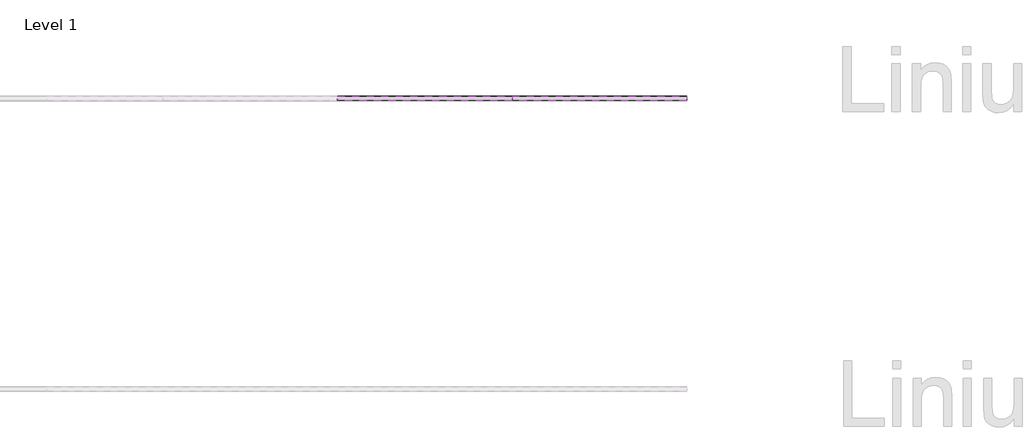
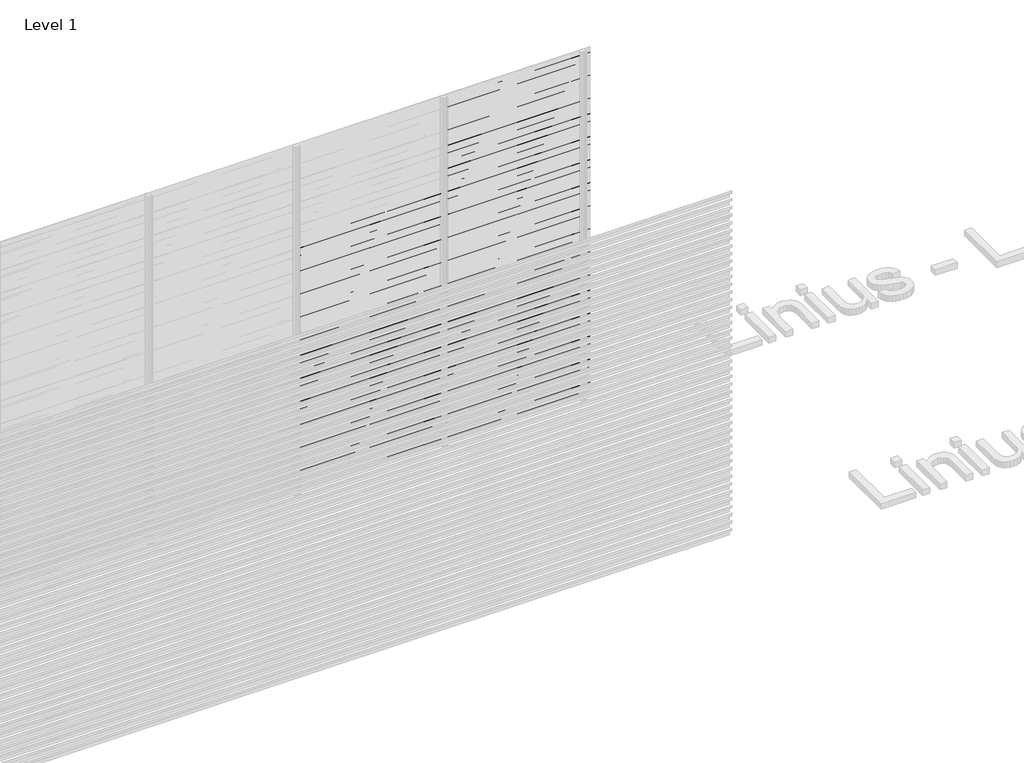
# One storey, part 114 of 540: 78 proxies.
"""IFC4 building model written with IfcOpenShell, lengths in millimetres."""

from ifc_helpers import new_model, si_unit, frame, origin, place, context, project, spatial, polyline, outline, extrude, element, save

model = new_model("IFC4")

# Units and contexts
model_context = context("Model", 3, world=origin())
ifc_project = project(units=[si_unit("LENGTHUNIT", "METRE", prefix="MILLI")], contexts=[model_context])

# Site, building, storey
site = spatial("IfcSite", under=ifc_project)
building = spatial("IfcBuilding", under=site)
storey = spatial("IfcBuildingStorey", under=building, Name="Level 1", Elevation=0.0)

# Proxies
placement = place(None, origin())
element("IfcBuildingElementProxy", 1, Name="Wall Sweeps", at=placement, inside=storey, context=model_context, shape_type="SweptSolid", body=[
    extrude(outline(polyline([(59014.0540136, 2138.0), (59014.0540136, 2105.0), (59012.8040136, 2105.7216933), (59012.8040136, 2137.2872415), (58983.0540136, 2158.0588647), (58983.0540136, 2178.0), (58984.3040136, 2178.0), (58984.3040136, 2158.7716232), (59014.0540136, 2138.0)])), frame((48566.6208097, 0.0, 0.0), z_axis=(1.0, 0.0, 0.0), x_axis=(0.0, 1.0, 0.0)), (0.0, 0.0, 1.0), 1200.0),
])
element("IfcBuildingElementProxy", 2, Name="Wall Sweeps", at=placement, inside=storey, context=model_context, shape_type="SweptSolid", body=[
    extrude(outline(polyline([(59014.0540136, 2072.0), (59014.0540136, 2039.0), (59012.8040136, 2039.7216933), (59012.8040136, 2071.2872415), (58983.0540136, 2092.0588647), (58983.0540136, 2112.0), (58984.3040136, 2112.0), (58984.3040136, 2092.7716232), (59014.0540136, 2072.0)])), frame((48566.6208097, 0.0, 0.0), z_axis=(1.0, 0.0, 0.0), x_axis=(0.0, 1.0, 0.0)), (0.0, 0.0, 1.0), 1200.0),
])
element("IfcBuildingElementProxy", 3, Name="Wall Sweeps", at=placement, inside=storey, context=model_context, shape_type="SweptSolid", body=[
    extrude(outline(polyline([(59014.0540136, 2006.0), (59014.0540136, 1973.0), (59012.8040136, 1973.7216933), (59012.8040136, 2005.2872415), (58983.0540136, 2026.0588647), (58983.0540136, 2046.0), (58984.3040136, 2046.0), (58984.3040136, 2026.7716232), (59014.0540136, 2006.0)])), frame((48566.6208097, 0.0, 0.0), z_axis=(1.0, 0.0, 0.0), x_axis=(0.0, 1.0, 0.0)), (0.0, 0.0, 1.0), 1200.0),
])
element("IfcBuildingElementProxy", 4, Name="Wall Sweeps", at=placement, inside=storey, context=model_context, shape_type="SweptSolid", body=[
    extrude(outline(polyline([(59014.0540136, 1940.0), (59014.0540136, 1907.0), (59012.8040136, 1907.7216933), (59012.8040136, 1939.2872415), (58983.0540136, 1960.0588647), (58983.0540136, 1980.0), (58984.3040136, 1980.0), (58984.3040136, 1960.7716232), (59014.0540136, 1940.0)])), frame((48566.6208097, 0.0, 0.0), z_axis=(1.0, 0.0, 0.0), x_axis=(0.0, 1.0, 0.0)), (0.0, 0.0, 1.0), 1200.0),
])
element("IfcBuildingElementProxy", 5, Name="Wall Sweeps", at=placement, inside=storey, context=model_context, shape_type="SweptSolid", body=[
    extrude(outline(polyline([(59014.0540136, 1874.0), (59014.0540136, 1841.0), (59012.8040136, 1841.7216933), (59012.8040136, 1873.2872415), (58983.0540136, 1894.0588647), (58983.0540136, 1914.0), (58984.3040136, 1914.0), (58984.3040136, 1894.7716232), (59014.0540136, 1874.0)])), frame((48566.6208097, 0.0, 0.0), z_axis=(1.0, 0.0, 0.0), x_axis=(0.0, 1.0, 0.0)), (0.0, 0.0, 1.0), 1200.0),
])
element("IfcBuildingElementProxy", 6, Name="Wall Sweeps", at=placement, inside=storey, context=model_context, shape_type="SweptSolid", body=[
    extrude(outline(polyline([(59014.0540136, 1808.0), (59014.0540136, 1775.0), (59012.8040136, 1775.7216933), (59012.8040136, 1807.2872415), (58983.0540136, 1828.0588647), (58983.0540136, 1848.0), (58984.3040136, 1848.0), (58984.3040136, 1828.7716232), (59014.0540136, 1808.0)])), frame((48566.6208097, 0.0, 0.0), z_axis=(1.0, 0.0, 0.0), x_axis=(0.0, 1.0, 0.0)), (0.0, 0.0, 1.0), 1200.0),
])
element("IfcBuildingElementProxy", 7, Name="Wall Sweeps", at=placement, inside=storey, context=model_context, shape_type="SweptSolid", body=[
    extrude(outline(polyline([(59014.0540136, 1742.0), (59014.0540136, 1709.0), (59012.8040136, 1709.7216933), (59012.8040136, 1741.2872415), (58983.0540136, 1762.0588647), (58983.0540136, 1782.0), (58984.3040136, 1782.0), (58984.3040136, 1762.7716232), (59014.0540136, 1742.0)])), frame((48566.6208097, 0.0, 0.0), z_axis=(1.0, 0.0, 0.0), x_axis=(0.0, 1.0, 0.0)), (0.0, 0.0, 1.0), 1200.0),
])
element("IfcBuildingElementProxy", 8, Name="Wall Sweeps", at=placement, inside=storey, context=model_context, shape_type="SweptSolid", body=[
    extrude(outline(polyline([(59014.0540136, 1676.0), (59014.0540136, 1643.0), (59012.8040136, 1643.7216933), (59012.8040136, 1675.2872415), (58983.0540136, 1696.0588647), (58983.0540136, 1716.0), (58984.3040136, 1716.0), (58984.3040136, 1696.7716232), (59014.0540136, 1676.0)])), frame((48566.6208097, 0.0, 0.0), z_axis=(1.0, 0.0, 0.0), x_axis=(0.0, 1.0, 0.0)), (0.0, 0.0, 1.0), 1200.0),
])
element("IfcBuildingElementProxy", 9, Name="Wall Sweeps", at=placement, inside=storey, context=model_context, shape_type="SweptSolid", body=[
    extrude(outline(polyline([(59014.0540136, 1610.0), (59014.0540136, 1577.0), (59012.8040136, 1577.7216933), (59012.8040136, 1609.2872415), (58983.0540136, 1630.0588647), (58983.0540136, 1650.0), (58984.3040136, 1650.0), (58984.3040136, 1630.7716232), (59014.0540136, 1610.0)])), frame((48566.6208097, 0.0, 0.0), z_axis=(1.0, 0.0, 0.0), x_axis=(0.0, 1.0, 0.0)), (0.0, 0.0, 1.0), 1200.0),
])
element("IfcBuildingElementProxy", 10, Name="Wall Sweeps", at=placement, inside=storey, context=model_context, shape_type="SweptSolid", body=[
    extrude(outline(polyline([(59014.0540136, 1544.0), (59014.0540136, 1511.0), (59012.8040136, 1511.7216933), (59012.8040136, 1543.2872415), (58983.0540136, 1564.0588647), (58983.0540136, 1584.0), (58984.3040136, 1584.0), (58984.3040136, 1564.7716232), (59014.0540136, 1544.0)])), frame((48566.6208097, 0.0, 0.0), z_axis=(1.0, 0.0, 0.0), x_axis=(0.0, 1.0, 0.0)), (0.0, 0.0, 1.0), 1200.0),
])
element("IfcBuildingElementProxy", 11, Name="Wall Sweeps", at=placement, inside=storey, context=model_context, shape_type="SweptSolid", body=[
    extrude(outline(polyline([(59014.0540136, 1478.0), (59014.0540136, 1445.0), (59012.8040136, 1445.7216933), (59012.8040136, 1477.2872415), (58983.0540136, 1498.0588647), (58983.0540136, 1518.0), (58984.3040136, 1518.0), (58984.3040136, 1498.7716232), (59014.0540136, 1478.0)])), frame((48566.6208097, 0.0, 0.0), z_axis=(1.0, 0.0, 0.0), x_axis=(0.0, 1.0, 0.0)), (0.0, 0.0, 1.0), 1200.0),
])
element("IfcBuildingElementProxy", 12, Name="Wall Sweeps", at=placement, inside=storey, context=model_context, shape_type="SweptSolid", body=[
    extrude(outline(polyline([(59014.0540136, 1412.0), (59014.0540136, 1379.0), (59012.8040136, 1379.7216933), (59012.8040136, 1411.2872415), (58983.0540136, 1432.0588647), (58983.0540136, 1452.0), (58984.3040136, 1452.0), (58984.3040136, 1432.7716232), (59014.0540136, 1412.0)])), frame((48566.6208097, 0.0, 0.0), z_axis=(1.0, 0.0, 0.0), x_axis=(0.0, 1.0, 0.0)), (0.0, 0.0, 1.0), 1200.0),
])
element("IfcBuildingElementProxy", 13, Name="Wall Sweeps", at=placement, inside=storey, context=model_context, shape_type="SweptSolid", body=[
    extrude(outline(polyline([(59014.0540136, 1346.0), (59014.0540136, 1313.0), (59012.8040136, 1313.7216933), (59012.8040136, 1345.2872415), (58983.0540136, 1366.0588647), (58983.0540136, 1386.0), (58984.3040136, 1386.0), (58984.3040136, 1366.7716232), (59014.0540136, 1346.0)])), frame((48566.6208097, 0.0, 0.0), z_axis=(1.0, 0.0, 0.0), x_axis=(0.0, 1.0, 0.0)), (0.0, 0.0, 1.0), 1200.0),
])
element("IfcBuildingElementProxy", 14, Name="Wall Sweeps", at=placement, inside=storey, context=model_context, shape_type="SweptSolid", body=[
    extrude(outline(polyline([(59014.0540136, 1280.0), (59014.0540136, 1247.0), (59012.8040136, 1247.7216933), (59012.8040136, 1279.2872415), (58983.0540136, 1300.0588647), (58983.0540136, 1320.0), (58984.3040136, 1320.0), (58984.3040136, 1300.7716232), (59014.0540136, 1280.0)])), frame((48566.6208097, 0.0, 0.0), z_axis=(1.0, 0.0, 0.0), x_axis=(0.0, 1.0, 0.0)), (0.0, 0.0, 1.0), 1200.0),
])
element("IfcBuildingElementProxy", 15, Name="Wall Sweeps", at=placement, inside=storey, context=model_context, shape_type="SweptSolid", body=[
    extrude(outline(polyline([(59014.0540136, 1214.0), (59014.0540136, 1181.0), (59012.8040136, 1181.7216933), (59012.8040136, 1213.2872415), (58983.0540136, 1234.0588647), (58983.0540136, 1254.0), (58984.3040136, 1254.0), (58984.3040136, 1234.7716232), (59014.0540136, 1214.0)])), frame((48566.6208097, 0.0, 0.0), z_axis=(1.0, 0.0, 0.0), x_axis=(0.0, 1.0, 0.0)), (0.0, 0.0, 1.0), 1200.0),
])
element("IfcBuildingElementProxy", 16, Name="Wall Sweeps", at=placement, inside=storey, context=model_context, shape_type="SweptSolid", body=[
    extrude(outline(polyline([(59014.0540136, 1148.0), (59014.0540136, 1115.0), (59012.8040136, 1115.7216933), (59012.8040136, 1147.2872415), (58983.0540136, 1168.0588647), (58983.0540136, 1188.0), (58984.3040136, 1188.0), (58984.3040136, 1168.7716232), (59014.0540136, 1148.0)])), frame((48566.6208097, 0.0, 0.0), z_axis=(1.0, 0.0, 0.0), x_axis=(0.0, 1.0, 0.0)), (0.0, 0.0, 1.0), 1200.0),
])
element("IfcBuildingElementProxy", 17, Name="Wall Sweeps", at=placement, inside=storey, context=model_context, shape_type="SweptSolid", body=[
    extrude(outline(polyline([(59014.0540136, 1082.0), (59014.0540136, 1049.0), (59012.8040136, 1049.7216933), (59012.8040136, 1081.2872415), (58983.0540136, 1102.0588647), (58983.0540136, 1122.0), (58984.3040136, 1122.0), (58984.3040136, 1102.7716232), (59014.0540136, 1082.0)])), frame((48566.6208097, 0.0, 0.0), z_axis=(1.0, 0.0, 0.0), x_axis=(0.0, 1.0, 0.0)), (0.0, 0.0, 1.0), 1200.0),
])
element("IfcBuildingElementProxy", 18, Name="Wall Sweeps", at=placement, inside=storey, context=model_context, shape_type="SweptSolid", body=[
    extrude(outline(polyline([(59014.0540136, 1016.0), (59014.0540136, 983.0), (59012.8040136, 983.7216933), (59012.8040136, 1015.2872415), (58983.0540136, 1036.0588647), (58983.0540136, 1056.0), (58984.3040136, 1056.0), (58984.3040136, 1036.7716232), (59014.0540136, 1016.0)])), frame((48566.6208097, 0.0, 0.0), z_axis=(1.0, 0.0, 0.0), x_axis=(0.0, 1.0, 0.0)), (0.0, 0.0, 1.0), 1200.0),
])
element("IfcBuildingElementProxy", 19, Name="Wall Sweeps", at=placement, inside=storey, context=model_context, shape_type="SweptSolid", body=[
    extrude(outline(polyline([(59014.0540136, 950.0), (59014.0540136, 917.0), (59012.8040136, 917.7216933), (59012.8040136, 949.2872415), (58983.0540136, 970.0588647), (58983.0540136, 990.0), (58984.3040136, 990.0), (58984.3040136, 970.7716232), (59014.0540136, 950.0)])), frame((48566.6208097, 0.0, 0.0), z_axis=(1.0, 0.0, 0.0), x_axis=(0.0, 1.0, 0.0)), (0.0, 0.0, 1.0), 1200.0),
])
element("IfcBuildingElementProxy", 20, Name="Wall Sweeps", at=placement, inside=storey, context=model_context, shape_type="SweptSolid", body=[
    extrude(outline(polyline([(59014.0540136, 884.0), (59014.0540136, 851.0), (59012.8040136, 851.7216933), (59012.8040136, 883.2872415), (58983.0540136, 904.0588647), (58983.0540136, 924.0), (58984.3040136, 924.0), (58984.3040136, 904.7716232), (59014.0540136, 884.0)])), frame((48566.6208097, 0.0, 0.0), z_axis=(1.0, 0.0, 0.0), x_axis=(0.0, 1.0, 0.0)), (0.0, 0.0, 1.0), 1200.0),
])
element("IfcBuildingElementProxy", 21, Name="Wall Sweeps", at=placement, inside=storey, context=model_context, shape_type="SweptSolid", body=[
    extrude(outline(polyline([(59014.0540136, 818.0), (59014.0540136, 785.0), (59012.8040136, 785.7216933), (59012.8040136, 817.2872415), (58983.0540136, 838.0588647), (58983.0540136, 858.0), (58984.3040136, 858.0), (58984.3040136, 838.7716232), (59014.0540136, 818.0)])), frame((48566.6208097, 0.0, 0.0), z_axis=(1.0, 0.0, 0.0), x_axis=(0.0, 1.0, 0.0)), (0.0, 0.0, 1.0), 1200.0),
])
element("IfcBuildingElementProxy", 22, Name="Wall Sweeps", at=placement, inside=storey, context=model_context, shape_type="SweptSolid", body=[
    extrude(outline(polyline([(59014.0540136, 752.0), (59014.0540136, 719.0), (59012.8040136, 719.7216933), (59012.8040136, 751.2872415), (58983.0540136, 772.0588647), (58983.0540136, 792.0), (58984.3040136, 792.0), (58984.3040136, 772.7716232), (59014.0540136, 752.0)])), frame((48566.6208097, 0.0, 0.0), z_axis=(1.0, 0.0, 0.0), x_axis=(0.0, 1.0, 0.0)), (0.0, 0.0, 1.0), 1200.0),
])
element("IfcBuildingElementProxy", 23, Name="Wall Sweeps", at=placement, inside=storey, context=model_context, shape_type="SweptSolid", body=[
    extrude(outline(polyline([(59014.0540136, 686.0), (59014.0540136, 653.0), (59012.8040136, 653.7216933), (59012.8040136, 685.2872415), (58983.0540136, 706.0588647), (58983.0540136, 726.0), (58984.3040136, 726.0), (58984.3040136, 706.7716232), (59014.0540136, 686.0)])), frame((48566.6208097, 0.0, 0.0), z_axis=(1.0, 0.0, 0.0), x_axis=(0.0, 1.0, 0.0)), (0.0, 0.0, 1.0), 1200.0),
])
element("IfcBuildingElementProxy", 24, Name="Wall Sweeps", at=placement, inside=storey, context=model_context, shape_type="SweptSolid", body=[
    extrude(outline(polyline([(59014.0540136, 620.0), (59014.0540136, 587.0), (59012.8040136, 587.7216933), (59012.8040136, 619.2872415), (58983.0540136, 640.0588647), (58983.0540136, 660.0), (58984.3040136, 660.0), (58984.3040136, 640.7716232), (59014.0540136, 620.0)])), frame((48566.6208097, 0.0, 0.0), z_axis=(1.0, 0.0, 0.0), x_axis=(0.0, 1.0, 0.0)), (0.0, 0.0, 1.0), 1200.0),
])
element("IfcBuildingElementProxy", 25, Name="Wall Sweeps", at=placement, inside=storey, context=model_context, shape_type="SweptSolid", body=[
    extrude(outline(polyline([(59014.0540136, 554.0), (59014.0540136, 521.0), (59012.8040136, 521.7216933), (59012.8040136, 553.2872415), (58983.0540136, 574.0588647), (58983.0540136, 594.0), (58984.3040136, 594.0), (58984.3040136, 574.7716232), (59014.0540136, 554.0)])), frame((48566.6208097, 0.0, 0.0), z_axis=(1.0, 0.0, 0.0), x_axis=(0.0, 1.0, 0.0)), (0.0, 0.0, 1.0), 1200.0),
])
element("IfcBuildingElementProxy", 26, Name="Wall Sweeps", at=placement, inside=storey, context=model_context, shape_type="SweptSolid", body=[
    extrude(outline(polyline([(59014.0540136, 488.0), (59014.0540136, 455.0), (59012.8040136, 455.7216933), (59012.8040136, 487.2872415), (58983.0540136, 508.0588647), (58983.0540136, 528.0), (58984.3040136, 528.0), (58984.3040136, 508.7716232), (59014.0540136, 488.0)])), frame((48566.6208097, 0.0, 0.0), z_axis=(1.0, 0.0, 0.0), x_axis=(0.0, 1.0, 0.0)), (0.0, 0.0, 1.0), 1200.0),
])
element("IfcBuildingElementProxy", 27, Name="Wall Sweeps", at=placement, inside=storey, context=model_context, shape_type="SweptSolid", body=[
    extrude(outline(polyline([(59014.0540136, 422.0), (59014.0540136, 389.0), (59012.8040136, 389.7216933), (59012.8040136, 421.2872415), (58983.0540136, 442.0588647), (58983.0540136, 462.0), (58984.3040136, 462.0), (58984.3040136, 442.7716232), (59014.0540136, 422.0)])), frame((48566.6208097, 0.0, 0.0), z_axis=(1.0, 0.0, 0.0), x_axis=(0.0, 1.0, 0.0)), (0.0, 0.0, 1.0), 1200.0),
])
element("IfcBuildingElementProxy", 28, Name="Wall Sweeps", at=placement, inside=storey, context=model_context, shape_type="SweptSolid", body=[
    extrude(outline(polyline([(59014.0540136, 356.0), (59014.0540136, 323.0), (59012.8040136, 323.7216933), (59012.8040136, 355.2872415), (58983.0540136, 376.0588647), (58983.0540136, 396.0), (58984.3040136, 396.0), (58984.3040136, 376.7716232), (59014.0540136, 356.0)])), frame((48566.6208097, 0.0, 0.0), z_axis=(1.0, 0.0, 0.0), x_axis=(0.0, 1.0, 0.0)), (0.0, 0.0, 1.0), 1200.0),
])
element("IfcBuildingElementProxy", 29, Name="Wall Sweeps", at=placement, inside=storey, context=model_context, shape_type="SweptSolid", body=[
    extrude(outline(polyline([(59014.0540136, 290.0), (59014.0540136, 257.0), (59012.8040136, 257.7216933), (59012.8040136, 289.2872415), (58983.0540136, 310.0588647), (58983.0540136, 330.0), (58984.3040136, 330.0), (58984.3040136, 310.7716232), (59014.0540136, 290.0)])), frame((48566.6208097, 0.0, 0.0), z_axis=(1.0, 0.0, 0.0), x_axis=(0.0, 1.0, 0.0)), (0.0, 0.0, 1.0), 1200.0),
])
element("IfcBuildingElementProxy", 30, Name="Wall Sweeps", at=placement, inside=storey, context=model_context, shape_type="SweptSolid", body=[
    extrude(outline(polyline([(59014.0540136, 224.0), (59014.0540136, 191.0), (59012.8040136, 191.7216933), (59012.8040136, 223.2872415), (58983.0540136, 244.0588647), (58983.0540136, 264.0), (58984.3040136, 264.0), (58984.3040136, 244.7716232), (59014.0540136, 224.0)])), frame((48566.6208097, 0.0, 0.0), z_axis=(1.0, 0.0, 0.0), x_axis=(0.0, 1.0, 0.0)), (0.0, 0.0, 1.0), 1200.0),
])
element("IfcBuildingElementProxy", 31, Name="Wall Sweeps", at=placement, inside=storey, context=model_context, shape_type="SweptSolid", body=[
    extrude(outline(polyline([(59014.0540136, 158.0), (59014.0540136, 125.0), (59012.8040136, 125.7216933), (59012.8040136, 157.2872415), (58983.0540136, 178.0588647), (58983.0540136, 198.0), (58984.3040136, 198.0), (58984.3040136, 178.7716232), (59014.0540136, 158.0)])), frame((48566.6208097, 0.0, 0.0), z_axis=(1.0, 0.0, 0.0), x_axis=(0.0, 1.0, 0.0)), (0.0, 0.0, 1.0), 1200.0),
])
element("IfcBuildingElementProxy", 32, Name="Wall Sweeps", at=placement, inside=storey, context=model_context, shape_type="SweptSolid", body=[
    extrude(outline(polyline([(59014.0540136, 92.0), (59014.0540136, 59.0), (59012.8040136, 59.7216933), (59012.8040136, 91.2872415), (58983.0540136, 112.0588647), (58983.0540136, 132.0), (58984.3040136, 132.0), (58984.3040136, 112.7716232), (59014.0540136, 92.0)])), frame((48566.6208097, 0.0, 0.0), z_axis=(1.0, 0.0, 0.0), x_axis=(0.0, 1.0, 0.0)), (0.0, 0.0, 1.0), 1200.0),
])
element("IfcBuildingElementProxy", 33, Name="Wall Sweeps", at=placement, inside=storey, context=model_context, shape_type="SweptSolid", body=[
    extrude(outline(polyline([(59014.0540136, 26.0), (59014.0540136, -7.0), (59012.8040136, -6.2783067), (59012.8040136, 25.2872415), (58983.0540136, 46.0588647), (58983.0540136, 66.0), (58984.3040136, 66.0), (58984.3040136, 46.7716232), (59014.0540136, 26.0)])), frame((48566.6208097, 0.0, 0.0), z_axis=(1.0, 0.0, 0.0), x_axis=(0.0, 1.0, 0.0)), (0.0, 0.0, 1.0), 1200.0),
])
element("IfcBuildingElementProxy", 34, Name="Wall Sweeps", at=placement, inside=storey, context=model_context, shape_type="SweptSolid", body=[
    extrude(outline(polyline([(59014.0540136, 2930.0), (59014.0540136, 2897.0), (59012.8040136, 2897.7216933), (59012.8040136, 2929.2872415), (58983.0540136, 2950.0588647), (58983.0540136, 2970.0), (58984.3040136, 2970.0), (58984.3040136, 2950.7716232), (59014.0540136, 2930.0)])), frame((49766.6208097, 0.0, 0.0), z_axis=(1.0, 0.0, 0.0), x_axis=(0.0, 1.0, 0.0)), (0.0, 0.0, 1.0), 1200.0),
])
element("IfcBuildingElementProxy", 35, Name="Wall Sweeps", at=placement, inside=storey, context=model_context, shape_type="SweptSolid", body=[
    extrude(outline(polyline([(59014.0540136, 2864.0), (59014.0540136, 2831.0), (59012.8040136, 2831.7216933), (59012.8040136, 2863.2872415), (58983.0540136, 2884.0588647), (58983.0540136, 2904.0), (58984.3040136, 2904.0), (58984.3040136, 2884.7716232), (59014.0540136, 2864.0)])), frame((49766.6208097, 0.0, 0.0), z_axis=(1.0, 0.0, 0.0), x_axis=(0.0, 1.0, 0.0)), (0.0, 0.0, 1.0), 1200.0),
])
element("IfcBuildingElementProxy", 36, Name="Wall Sweeps", at=placement, inside=storey, context=model_context, shape_type="SweptSolid", body=[
    extrude(outline(polyline([(59014.0540136, 2798.0), (59014.0540136, 2765.0), (59012.8040136, 2765.7216933), (59012.8040136, 2797.2872415), (58983.0540136, 2818.0588647), (58983.0540136, 2838.0), (58984.3040136, 2838.0), (58984.3040136, 2818.7716232), (59014.0540136, 2798.0)])), frame((49766.6208097, 0.0, 0.0), z_axis=(1.0, 0.0, 0.0), x_axis=(0.0, 1.0, 0.0)), (0.0, 0.0, 1.0), 1200.0),
])
element("IfcBuildingElementProxy", 37, Name="Wall Sweeps", at=placement, inside=storey, context=model_context, shape_type="SweptSolid", body=[
    extrude(outline(polyline([(59014.0540136, 2732.0), (59014.0540136, 2699.0), (59012.8040136, 2699.7216933), (59012.8040136, 2731.2872415), (58983.0540136, 2752.0588647), (58983.0540136, 2772.0), (58984.3040136, 2772.0), (58984.3040136, 2752.7716232), (59014.0540136, 2732.0)])), frame((49766.6208097, 0.0, 0.0), z_axis=(1.0, 0.0, 0.0), x_axis=(0.0, 1.0, 0.0)), (0.0, 0.0, 1.0), 1200.0),
])
element("IfcBuildingElementProxy", 38, Name="Wall Sweeps", at=placement, inside=storey, context=model_context, shape_type="SweptSolid", body=[
    extrude(outline(polyline([(59014.0540136, 2666.0), (59014.0540136, 2633.0), (59012.8040136, 2633.7216933), (59012.8040136, 2665.2872415), (58983.0540136, 2686.0588647), (58983.0540136, 2706.0), (58984.3040136, 2706.0), (58984.3040136, 2686.7716232), (59014.0540136, 2666.0)])), frame((49766.6208097, 0.0, 0.0), z_axis=(1.0, 0.0, 0.0), x_axis=(0.0, 1.0, 0.0)), (0.0, 0.0, 1.0), 1200.0),
])
element("IfcBuildingElementProxy", 39, Name="Wall Sweeps", at=placement, inside=storey, context=model_context, shape_type="SweptSolid", body=[
    extrude(outline(polyline([(59014.0540136, 2600.0), (59014.0540136, 2567.0), (59012.8040136, 2567.7216933), (59012.8040136, 2599.2872415), (58983.0540136, 2620.0588647), (58983.0540136, 2640.0), (58984.3040136, 2640.0), (58984.3040136, 2620.7716232), (59014.0540136, 2600.0)])), frame((49766.6208097, 0.0, 0.0), z_axis=(1.0, 0.0, 0.0), x_axis=(0.0, 1.0, 0.0)), (0.0, 0.0, 1.0), 1200.0),
])
element("IfcBuildingElementProxy", 40, Name="Wall Sweeps", at=placement, inside=storey, context=model_context, shape_type="SweptSolid", body=[
    extrude(outline(polyline([(59014.0540136, 2534.0), (59014.0540136, 2501.0), (59012.8040136, 2501.7216933), (59012.8040136, 2533.2872415), (58983.0540136, 2554.0588647), (58983.0540136, 2574.0), (58984.3040136, 2574.0), (58984.3040136, 2554.7716232), (59014.0540136, 2534.0)])), frame((49766.6208097, 0.0, 0.0), z_axis=(1.0, 0.0, 0.0), x_axis=(0.0, 1.0, 0.0)), (0.0, 0.0, 1.0), 1200.0),
])
element("IfcBuildingElementProxy", 41, Name="Wall Sweeps", at=placement, inside=storey, context=model_context, shape_type="SweptSolid", body=[
    extrude(outline(polyline([(59014.0540136, 2468.0), (59014.0540136, 2435.0), (59012.8040136, 2435.7216933), (59012.8040136, 2467.2872415), (58983.0540136, 2488.0588647), (58983.0540136, 2508.0), (58984.3040136, 2508.0), (58984.3040136, 2488.7716232), (59014.0540136, 2468.0)])), frame((49766.6208097, 0.0, 0.0), z_axis=(1.0, 0.0, 0.0), x_axis=(0.0, 1.0, 0.0)), (0.0, 0.0, 1.0), 1200.0),
])
element("IfcBuildingElementProxy", 42, Name="Wall Sweeps", at=placement, inside=storey, context=model_context, shape_type="SweptSolid", body=[
    extrude(outline(polyline([(59014.0540136, 2402.0), (59014.0540136, 2369.0), (59012.8040136, 2369.7216933), (59012.8040136, 2401.2872415), (58983.0540136, 2422.0588647), (58983.0540136, 2442.0), (58984.3040136, 2442.0), (58984.3040136, 2422.7716232), (59014.0540136, 2402.0)])), frame((49766.6208097, 0.0, 0.0), z_axis=(1.0, 0.0, 0.0), x_axis=(0.0, 1.0, 0.0)), (0.0, 0.0, 1.0), 1200.0),
])
element("IfcBuildingElementProxy", 43, Name="Wall Sweeps", at=placement, inside=storey, context=model_context, shape_type="SweptSolid", body=[
    extrude(outline(polyline([(59014.0540136, 2336.0), (59014.0540136, 2303.0), (59012.8040136, 2303.7216933), (59012.8040136, 2335.2872415), (58983.0540136, 2356.0588647), (58983.0540136, 2376.0), (58984.3040136, 2376.0), (58984.3040136, 2356.7716232), (59014.0540136, 2336.0)])), frame((49766.6208097, 0.0, 0.0), z_axis=(1.0, 0.0, 0.0), x_axis=(0.0, 1.0, 0.0)), (0.0, 0.0, 1.0), 1200.0),
])
element("IfcBuildingElementProxy", 44, Name="Wall Sweeps", at=placement, inside=storey, context=model_context, shape_type="SweptSolid", body=[
    extrude(outline(polyline([(59014.0540136, 2270.0), (59014.0540136, 2237.0), (59012.8040136, 2237.7216933), (59012.8040136, 2269.2872415), (58983.0540136, 2290.0588647), (58983.0540136, 2310.0), (58984.3040136, 2310.0), (58984.3040136, 2290.7716232), (59014.0540136, 2270.0)])), frame((49766.6208097, 0.0, 0.0), z_axis=(1.0, 0.0, 0.0), x_axis=(0.0, 1.0, 0.0)), (0.0, 0.0, 1.0), 1200.0),
])
element("IfcBuildingElementProxy", 45, Name="Wall Sweeps", at=placement, inside=storey, context=model_context, shape_type="SweptSolid", body=[
    extrude(outline(polyline([(59014.0540136, 2204.0), (59014.0540136, 2171.0), (59012.8040136, 2171.7216933), (59012.8040136, 2203.2872415), (58983.0540136, 2224.0588647), (58983.0540136, 2244.0), (58984.3040136, 2244.0), (58984.3040136, 2224.7716232), (59014.0540136, 2204.0)])), frame((49766.6208097, 0.0, 0.0), z_axis=(1.0, 0.0, 0.0), x_axis=(0.0, 1.0, 0.0)), (0.0, 0.0, 1.0), 1200.0),
])
element("IfcBuildingElementProxy", 46, Name="Wall Sweeps", at=placement, inside=storey, context=model_context, shape_type="SweptSolid", body=[
    extrude(outline(polyline([(59014.0540136, 2138.0), (59014.0540136, 2105.0), (59012.8040136, 2105.7216933), (59012.8040136, 2137.2872415), (58983.0540136, 2158.0588647), (58983.0540136, 2178.0), (58984.3040136, 2178.0), (58984.3040136, 2158.7716232), (59014.0540136, 2138.0)])), frame((49766.6208097, 0.0, 0.0), z_axis=(1.0, 0.0, 0.0), x_axis=(0.0, 1.0, 0.0)), (0.0, 0.0, 1.0), 1200.0),
])
element("IfcBuildingElementProxy", 47, Name="Wall Sweeps", at=placement, inside=storey, context=model_context, shape_type="SweptSolid", body=[
    extrude(outline(polyline([(59014.0540136, 2072.0), (59014.0540136, 2039.0), (59012.8040136, 2039.7216933), (59012.8040136, 2071.2872415), (58983.0540136, 2092.0588647), (58983.0540136, 2112.0), (58984.3040136, 2112.0), (58984.3040136, 2092.7716232), (59014.0540136, 2072.0)])), frame((49766.6208097, 0.0, 0.0), z_axis=(1.0, 0.0, 0.0), x_axis=(0.0, 1.0, 0.0)), (0.0, 0.0, 1.0), 1200.0),
])
element("IfcBuildingElementProxy", 48, Name="Wall Sweeps", at=placement, inside=storey, context=model_context, shape_type="SweptSolid", body=[
    extrude(outline(polyline([(59014.0540136, 2006.0), (59014.0540136, 1973.0), (59012.8040136, 1973.7216933), (59012.8040136, 2005.2872415), (58983.0540136, 2026.0588647), (58983.0540136, 2046.0), (58984.3040136, 2046.0), (58984.3040136, 2026.7716232), (59014.0540136, 2006.0)])), frame((49766.6208097, 0.0, 0.0), z_axis=(1.0, 0.0, 0.0), x_axis=(0.0, 1.0, 0.0)), (0.0, 0.0, 1.0), 1200.0),
])
element("IfcBuildingElementProxy", 49, Name="Wall Sweeps", at=placement, inside=storey, context=model_context, shape_type="SweptSolid", body=[
    extrude(outline(polyline([(59014.0540136, 1940.0), (59014.0540136, 1907.0), (59012.8040136, 1907.7216933), (59012.8040136, 1939.2872415), (58983.0540136, 1960.0588647), (58983.0540136, 1980.0), (58984.3040136, 1980.0), (58984.3040136, 1960.7716232), (59014.0540136, 1940.0)])), frame((49766.6208097, 0.0, 0.0), z_axis=(1.0, 0.0, 0.0), x_axis=(0.0, 1.0, 0.0)), (0.0, 0.0, 1.0), 1200.0),
])
element("IfcBuildingElementProxy", 50, Name="Wall Sweeps", at=placement, inside=storey, context=model_context, shape_type="SweptSolid", body=[
    extrude(outline(polyline([(59014.0540136, 1874.0), (59014.0540136, 1841.0), (59012.8040136, 1841.7216933), (59012.8040136, 1873.2872415), (58983.0540136, 1894.0588647), (58983.0540136, 1914.0), (58984.3040136, 1914.0), (58984.3040136, 1894.7716232), (59014.0540136, 1874.0)])), frame((49766.6208097, 0.0, 0.0), z_axis=(1.0, 0.0, 0.0), x_axis=(0.0, 1.0, 0.0)), (0.0, 0.0, 1.0), 1200.0),
])
element("IfcBuildingElementProxy", 51, Name="Wall Sweeps", at=placement, inside=storey, context=model_context, shape_type="SweptSolid", body=[
    extrude(outline(polyline([(59014.0540136, 1808.0), (59014.0540136, 1775.0), (59012.8040136, 1775.7216933), (59012.8040136, 1807.2872415), (58983.0540136, 1828.0588647), (58983.0540136, 1848.0), (58984.3040136, 1848.0), (58984.3040136, 1828.7716232), (59014.0540136, 1808.0)])), frame((49766.6208097, 0.0, 0.0), z_axis=(1.0, 0.0, 0.0), x_axis=(0.0, 1.0, 0.0)), (0.0, 0.0, 1.0), 1200.0),
])
element("IfcBuildingElementProxy", 52, Name="Wall Sweeps", at=placement, inside=storey, context=model_context, shape_type="SweptSolid", body=[
    extrude(outline(polyline([(59014.0540136, 1742.0), (59014.0540136, 1709.0), (59012.8040136, 1709.7216933), (59012.8040136, 1741.2872415), (58983.0540136, 1762.0588647), (58983.0540136, 1782.0), (58984.3040136, 1782.0), (58984.3040136, 1762.7716232), (59014.0540136, 1742.0)])), frame((49766.6208097, 0.0, 0.0), z_axis=(1.0, 0.0, 0.0), x_axis=(0.0, 1.0, 0.0)), (0.0, 0.0, 1.0), 1200.0),
])
element("IfcBuildingElementProxy", 53, Name="Wall Sweeps", at=placement, inside=storey, context=model_context, shape_type="SweptSolid", body=[
    extrude(outline(polyline([(59014.0540136, 1676.0), (59014.0540136, 1643.0), (59012.8040136, 1643.7216933), (59012.8040136, 1675.2872415), (58983.0540136, 1696.0588647), (58983.0540136, 1716.0), (58984.3040136, 1716.0), (58984.3040136, 1696.7716232), (59014.0540136, 1676.0)])), frame((49766.6208097, 0.0, 0.0), z_axis=(1.0, 0.0, 0.0), x_axis=(0.0, 1.0, 0.0)), (0.0, 0.0, 1.0), 1200.0),
])
element("IfcBuildingElementProxy", 54, Name="Wall Sweeps", at=placement, inside=storey, context=model_context, shape_type="SweptSolid", body=[
    extrude(outline(polyline([(59014.0540136, 1610.0), (59014.0540136, 1577.0), (59012.8040136, 1577.7216933), (59012.8040136, 1609.2872415), (58983.0540136, 1630.0588647), (58983.0540136, 1650.0), (58984.3040136, 1650.0), (58984.3040136, 1630.7716232), (59014.0540136, 1610.0)])), frame((49766.6208097, 0.0, 0.0), z_axis=(1.0, 0.0, 0.0), x_axis=(0.0, 1.0, 0.0)), (0.0, 0.0, 1.0), 1200.0),
])
element("IfcBuildingElementProxy", 55, Name="Wall Sweeps", at=placement, inside=storey, context=model_context, shape_type="SweptSolid", body=[
    extrude(outline(polyline([(59014.0540136, 1544.0), (59014.0540136, 1511.0), (59012.8040136, 1511.7216933), (59012.8040136, 1543.2872415), (58983.0540136, 1564.0588647), (58983.0540136, 1584.0), (58984.3040136, 1584.0), (58984.3040136, 1564.7716232), (59014.0540136, 1544.0)])), frame((49766.6208097, 0.0, 0.0), z_axis=(1.0, 0.0, 0.0), x_axis=(0.0, 1.0, 0.0)), (0.0, 0.0, 1.0), 1200.0),
])
element("IfcBuildingElementProxy", 56, Name="Wall Sweeps", at=placement, inside=storey, context=model_context, shape_type="SweptSolid", body=[
    extrude(outline(polyline([(59014.0540136, 1478.0), (59014.0540136, 1445.0), (59012.8040136, 1445.7216933), (59012.8040136, 1477.2872415), (58983.0540136, 1498.0588647), (58983.0540136, 1518.0), (58984.3040136, 1518.0), (58984.3040136, 1498.7716232), (59014.0540136, 1478.0)])), frame((49766.6208097, 0.0, 0.0), z_axis=(1.0, 0.0, 0.0), x_axis=(0.0, 1.0, 0.0)), (0.0, 0.0, 1.0), 1200.0),
])
element("IfcBuildingElementProxy", 57, Name="Wall Sweeps", at=placement, inside=storey, context=model_context, shape_type="SweptSolid", body=[
    extrude(outline(polyline([(59014.0540136, 1412.0), (59014.0540136, 1379.0), (59012.8040136, 1379.7216933), (59012.8040136, 1411.2872415), (58983.0540136, 1432.0588647), (58983.0540136, 1452.0), (58984.3040136, 1452.0), (58984.3040136, 1432.7716232), (59014.0540136, 1412.0)])), frame((49766.6208097, 0.0, 0.0), z_axis=(1.0, 0.0, 0.0), x_axis=(0.0, 1.0, 0.0)), (0.0, 0.0, 1.0), 1200.0),
])
element("IfcBuildingElementProxy", 58, Name="Wall Sweeps", at=placement, inside=storey, context=model_context, shape_type="SweptSolid", body=[
    extrude(outline(polyline([(59014.0540136, 1346.0), (59014.0540136, 1313.0), (59012.8040136, 1313.7216933), (59012.8040136, 1345.2872415), (58983.0540136, 1366.0588647), (58983.0540136, 1386.0), (58984.3040136, 1386.0), (58984.3040136, 1366.7716232), (59014.0540136, 1346.0)])), frame((49766.6208097, 0.0, 0.0), z_axis=(1.0, 0.0, 0.0), x_axis=(0.0, 1.0, 0.0)), (0.0, 0.0, 1.0), 1200.0),
])
element("IfcBuildingElementProxy", 59, Name="Wall Sweeps", at=placement, inside=storey, context=model_context, shape_type="SweptSolid", body=[
    extrude(outline(polyline([(59014.0540136, 1280.0), (59014.0540136, 1247.0), (59012.8040136, 1247.7216933), (59012.8040136, 1279.2872415), (58983.0540136, 1300.0588647), (58983.0540136, 1320.0), (58984.3040136, 1320.0), (58984.3040136, 1300.7716232), (59014.0540136, 1280.0)])), frame((49766.6208097, 0.0, 0.0), z_axis=(1.0, 0.0, 0.0), x_axis=(0.0, 1.0, 0.0)), (0.0, 0.0, 1.0), 1200.0),
])
element("IfcBuildingElementProxy", 60, Name="Wall Sweeps", at=placement, inside=storey, context=model_context, shape_type="SweptSolid", body=[
    extrude(outline(polyline([(59014.0540136, 1214.0), (59014.0540136, 1181.0), (59012.8040136, 1181.7216933), (59012.8040136, 1213.2872415), (58983.0540136, 1234.0588647), (58983.0540136, 1254.0), (58984.3040136, 1254.0), (58984.3040136, 1234.7716232), (59014.0540136, 1214.0)])), frame((49766.6208097, 0.0, 0.0), z_axis=(1.0, 0.0, 0.0), x_axis=(0.0, 1.0, 0.0)), (0.0, 0.0, 1.0), 1200.0),
])
element("IfcBuildingElementProxy", 61, Name="Wall Sweeps", at=placement, inside=storey, context=model_context, shape_type="SweptSolid", body=[
    extrude(outline(polyline([(59014.0540136, 1148.0), (59014.0540136, 1115.0), (59012.8040136, 1115.7216933), (59012.8040136, 1147.2872415), (58983.0540136, 1168.0588647), (58983.0540136, 1188.0), (58984.3040136, 1188.0), (58984.3040136, 1168.7716232), (59014.0540136, 1148.0)])), frame((49766.6208097, 0.0, 0.0), z_axis=(1.0, 0.0, 0.0), x_axis=(0.0, 1.0, 0.0)), (0.0, 0.0, 1.0), 1200.0),
])
element("IfcBuildingElementProxy", 62, Name="Wall Sweeps", at=placement, inside=storey, context=model_context, shape_type="SweptSolid", body=[
    extrude(outline(polyline([(59014.0540136, 1082.0), (59014.0540136, 1049.0), (59012.8040136, 1049.7216933), (59012.8040136, 1081.2872415), (58983.0540136, 1102.0588647), (58983.0540136, 1122.0), (58984.3040136, 1122.0), (58984.3040136, 1102.7716232), (59014.0540136, 1082.0)])), frame((49766.6208097, 0.0, 0.0), z_axis=(1.0, 0.0, 0.0), x_axis=(0.0, 1.0, 0.0)), (0.0, 0.0, 1.0), 1200.0),
])
element("IfcBuildingElementProxy", 63, Name="Wall Sweeps", at=placement, inside=storey, context=model_context, shape_type="SweptSolid", body=[
    extrude(outline(polyline([(59014.0540136, 1016.0), (59014.0540136, 983.0), (59012.8040136, 983.7216933), (59012.8040136, 1015.2872415), (58983.0540136, 1036.0588647), (58983.0540136, 1056.0), (58984.3040136, 1056.0), (58984.3040136, 1036.7716232), (59014.0540136, 1016.0)])), frame((49766.6208097, 0.0, 0.0), z_axis=(1.0, 0.0, 0.0), x_axis=(0.0, 1.0, 0.0)), (0.0, 0.0, 1.0), 1200.0),
])
element("IfcBuildingElementProxy", 64, Name="Wall Sweeps", at=placement, inside=storey, context=model_context, shape_type="SweptSolid", body=[
    extrude(outline(polyline([(59014.0540136, 950.0), (59014.0540136, 917.0), (59012.8040136, 917.7216933), (59012.8040136, 949.2872415), (58983.0540136, 970.0588647), (58983.0540136, 990.0), (58984.3040136, 990.0), (58984.3040136, 970.7716232), (59014.0540136, 950.0)])), frame((49766.6208097, 0.0, 0.0), z_axis=(1.0, 0.0, 0.0), x_axis=(0.0, 1.0, 0.0)), (0.0, 0.0, 1.0), 1200.0),
])
element("IfcBuildingElementProxy", 65, Name="Wall Sweeps", at=placement, inside=storey, context=model_context, shape_type="SweptSolid", body=[
    extrude(outline(polyline([(59014.0540136, 884.0), (59014.0540136, 851.0), (59012.8040136, 851.7216933), (59012.8040136, 883.2872415), (58983.0540136, 904.0588647), (58983.0540136, 924.0), (58984.3040136, 924.0), (58984.3040136, 904.7716232), (59014.0540136, 884.0)])), frame((49766.6208097, 0.0, 0.0), z_axis=(1.0, 0.0, 0.0), x_axis=(0.0, 1.0, 0.0)), (0.0, 0.0, 1.0), 1200.0),
])
element("IfcBuildingElementProxy", 66, Name="Wall Sweeps", at=placement, inside=storey, context=model_context, shape_type="SweptSolid", body=[
    extrude(outline(polyline([(59014.0540136, 818.0), (59014.0540136, 785.0), (59012.8040136, 785.7216933), (59012.8040136, 817.2872415), (58983.0540136, 838.0588647), (58983.0540136, 858.0), (58984.3040136, 858.0), (58984.3040136, 838.7716232), (59014.0540136, 818.0)])), frame((49766.6208097, 0.0, 0.0), z_axis=(1.0, 0.0, 0.0), x_axis=(0.0, 1.0, 0.0)), (0.0, 0.0, 1.0), 1200.0),
])
element("IfcBuildingElementProxy", 67, Name="Wall Sweeps", at=placement, inside=storey, context=model_context, shape_type="SweptSolid", body=[
    extrude(outline(polyline([(59014.0540136, 752.0), (59014.0540136, 719.0), (59012.8040136, 719.7216933), (59012.8040136, 751.2872415), (58983.0540136, 772.0588647), (58983.0540136, 792.0), (58984.3040136, 792.0), (58984.3040136, 772.7716232), (59014.0540136, 752.0)])), frame((49766.6208097, 0.0, 0.0), z_axis=(1.0, 0.0, 0.0), x_axis=(0.0, 1.0, 0.0)), (0.0, 0.0, 1.0), 1200.0),
])
element("IfcBuildingElementProxy", 68, Name="Wall Sweeps", at=placement, inside=storey, context=model_context, shape_type="SweptSolid", body=[
    extrude(outline(polyline([(59014.0540136, 686.0), (59014.0540136, 653.0), (59012.8040136, 653.7216933), (59012.8040136, 685.2872415), (58983.0540136, 706.0588647), (58983.0540136, 726.0), (58984.3040136, 726.0), (58984.3040136, 706.7716232), (59014.0540136, 686.0)])), frame((49766.6208097, 0.0, 0.0), z_axis=(1.0, 0.0, 0.0), x_axis=(0.0, 1.0, 0.0)), (0.0, 0.0, 1.0), 1200.0),
])
element("IfcBuildingElementProxy", 69, Name="Wall Sweeps", at=placement, inside=storey, context=model_context, shape_type="SweptSolid", body=[
    extrude(outline(polyline([(59014.0540136, 620.0), (59014.0540136, 587.0), (59012.8040136, 587.7216933), (59012.8040136, 619.2872415), (58983.0540136, 640.0588647), (58983.0540136, 660.0), (58984.3040136, 660.0), (58984.3040136, 640.7716232), (59014.0540136, 620.0)])), frame((49766.6208097, 0.0, 0.0), z_axis=(1.0, 0.0, 0.0), x_axis=(0.0, 1.0, 0.0)), (0.0, 0.0, 1.0), 1200.0),
])
element("IfcBuildingElementProxy", 70, Name="Wall Sweeps", at=placement, inside=storey, context=model_context, shape_type="SweptSolid", body=[
    extrude(outline(polyline([(59014.0540136, 554.0), (59014.0540136, 521.0), (59012.8040136, 521.7216933), (59012.8040136, 553.2872415), (58983.0540136, 574.0588647), (58983.0540136, 594.0), (58984.3040136, 594.0), (58984.3040136, 574.7716232), (59014.0540136, 554.0)])), frame((49766.6208097, 0.0, 0.0), z_axis=(1.0, 0.0, 0.0), x_axis=(0.0, 1.0, 0.0)), (0.0, 0.0, 1.0), 1200.0),
])
element("IfcBuildingElementProxy", 71, Name="Wall Sweeps", at=placement, inside=storey, context=model_context, shape_type="SweptSolid", body=[
    extrude(outline(polyline([(59014.0540136, 488.0), (59014.0540136, 455.0), (59012.8040136, 455.7216933), (59012.8040136, 487.2872415), (58983.0540136, 508.0588647), (58983.0540136, 528.0), (58984.3040136, 528.0), (58984.3040136, 508.7716232), (59014.0540136, 488.0)])), frame((49766.6208097, 0.0, 0.0), z_axis=(1.0, 0.0, 0.0), x_axis=(0.0, 1.0, 0.0)), (0.0, 0.0, 1.0), 1200.0),
])
element("IfcBuildingElementProxy", 72, Name="Wall Sweeps", at=placement, inside=storey, context=model_context, shape_type="SweptSolid", body=[
    extrude(outline(polyline([(59014.0540136, 422.0), (59014.0540136, 389.0), (59012.8040136, 389.7216933), (59012.8040136, 421.2872415), (58983.0540136, 442.0588647), (58983.0540136, 462.0), (58984.3040136, 462.0), (58984.3040136, 442.7716232), (59014.0540136, 422.0)])), frame((49766.6208097, 0.0, 0.0), z_axis=(1.0, 0.0, 0.0), x_axis=(0.0, 1.0, 0.0)), (0.0, 0.0, 1.0), 1200.0),
])
element("IfcBuildingElementProxy", 73, Name="Wall Sweeps", at=placement, inside=storey, context=model_context, shape_type="SweptSolid", body=[
    extrude(outline(polyline([(59014.0540136, 356.0), (59014.0540136, 323.0), (59012.8040136, 323.7216933), (59012.8040136, 355.2872415), (58983.0540136, 376.0588647), (58983.0540136, 396.0), (58984.3040136, 396.0), (58984.3040136, 376.7716232), (59014.0540136, 356.0)])), frame((49766.6208097, 0.0, 0.0), z_axis=(1.0, 0.0, 0.0), x_axis=(0.0, 1.0, 0.0)), (0.0, 0.0, 1.0), 1200.0),
])
element("IfcBuildingElementProxy", 74, Name="Wall Sweeps", at=placement, inside=storey, context=model_context, shape_type="SweptSolid", body=[
    extrude(outline(polyline([(59014.0540136, 290.0), (59014.0540136, 257.0), (59012.8040136, 257.7216933), (59012.8040136, 289.2872415), (58983.0540136, 310.0588647), (58983.0540136, 330.0), (58984.3040136, 330.0), (58984.3040136, 310.7716232), (59014.0540136, 290.0)])), frame((49766.6208097, 0.0, 0.0), z_axis=(1.0, 0.0, 0.0), x_axis=(0.0, 1.0, 0.0)), (0.0, 0.0, 1.0), 1200.0),
])
element("IfcBuildingElementProxy", 75, Name="Wall Sweeps", at=placement, inside=storey, context=model_context, shape_type="SweptSolid", body=[
    extrude(outline(polyline([(59014.0540136, 224.0), (59014.0540136, 191.0), (59012.8040136, 191.7216933), (59012.8040136, 223.2872415), (58983.0540136, 244.0588647), (58983.0540136, 264.0), (58984.3040136, 264.0), (58984.3040136, 244.7716232), (59014.0540136, 224.0)])), frame((49766.6208097, 0.0, 0.0), z_axis=(1.0, 0.0, 0.0), x_axis=(0.0, 1.0, 0.0)), (0.0, 0.0, 1.0), 1200.0),
])
element("IfcBuildingElementProxy", 76, Name="Wall Sweeps", at=placement, inside=storey, context=model_context, shape_type="SweptSolid", body=[
    extrude(outline(polyline([(59014.0540136, 158.0), (59014.0540136, 125.0), (59012.8040136, 125.7216933), (59012.8040136, 157.2872415), (58983.0540136, 178.0588647), (58983.0540136, 198.0), (58984.3040136, 198.0), (58984.3040136, 178.7716232), (59014.0540136, 158.0)])), frame((49766.6208097, 0.0, 0.0), z_axis=(1.0, 0.0, 0.0), x_axis=(0.0, 1.0, 0.0)), (0.0, 0.0, 1.0), 1200.0),
])
element("IfcBuildingElementProxy", 77, Name="Wall Sweeps", at=placement, inside=storey, context=model_context, shape_type="SweptSolid", body=[
    extrude(outline(polyline([(59014.0540136, 92.0), (59014.0540136, 59.0), (59012.8040136, 59.7216933), (59012.8040136, 91.2872415), (58983.0540136, 112.0588647), (58983.0540136, 132.0), (58984.3040136, 132.0), (58984.3040136, 112.7716232), (59014.0540136, 92.0)])), frame((49766.6208097, 0.0, 0.0), z_axis=(1.0, 0.0, 0.0), x_axis=(0.0, 1.0, 0.0)), (0.0, 0.0, 1.0), 1200.0),
])
element("IfcBuildingElementProxy", 78, Name="Wall Sweeps", at=placement, inside=storey, context=model_context, shape_type="SweptSolid", body=[
    extrude(outline(polyline([(59014.0540136, 26.0), (59014.0540136, -7.0), (59012.8040136, -6.2783067), (59012.8040136, 25.2872415), (58983.0540136, 46.0588647), (58983.0540136, 66.0), (58984.3040136, 66.0), (58984.3040136, 46.7716232), (59014.0540136, 26.0)])), frame((49766.6208097, 0.0, 0.0), z_axis=(1.0, 0.0, 0.0), x_axis=(0.0, 1.0, 0.0)), (0.0, 0.0, 1.0), 1200.0),
])

save(model, "model.ifc")
